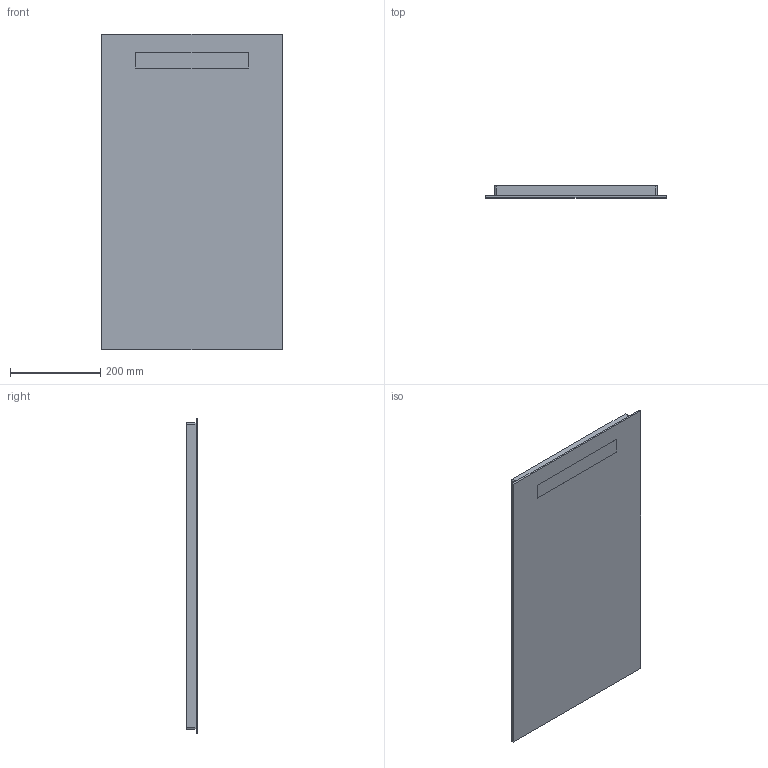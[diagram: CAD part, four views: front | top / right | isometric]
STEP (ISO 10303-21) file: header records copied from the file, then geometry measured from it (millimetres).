
FILE_DESCRIPTION(/* description */ (''),/* implementation_level */ '2;1');
FILE_NAME(/* name */ 'C:\Planerdaten\Export PLA\502.803.00.1\stp\502803.stp',/* time_stamp */ '2022-12-02T15:09:06+01:00',/* author */ ('JANAN'),/* organization */ (''),/* preprocessor_version */ 'ST-DEVELOPER v18.1',/* originating_system */ 'Autodesk Inventor 2021',/* authorisation */ '');
FILE_SCHEMA (('AUTOMOTIVE_DESIGN { 1 0 10303 214 3 1 1 }'));
Length unit declared in the file: millimetre
Products named in the file (1): tmpA4E5.tmp
Bounding box: 400 x 26 x 700 mm (x, y, z)
Volume: 6502544.4 mm3; surface area: 1105093.5 mm2
Topology: 2 solids, 2 shells, 29 faces, 68 edges, 48 vertices
Faces by surface type: plane 21, cylinder 8
Full cylindrical faces by diameter (mm): 8 x4
Entity records: 937 total; most frequent: DIRECTION 152, CARTESIAN_POINT 146, ORIENTED_EDGE 136, EDGE_CURVE 68, AXIS2_PLACEMENT_3D 54, VERTEX_POINT 48, LINE 44, VECTOR 44
